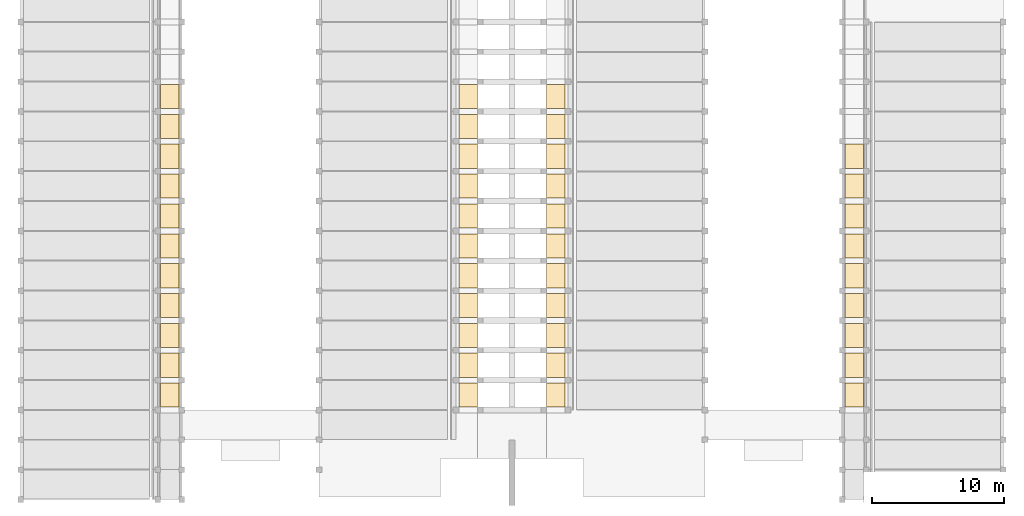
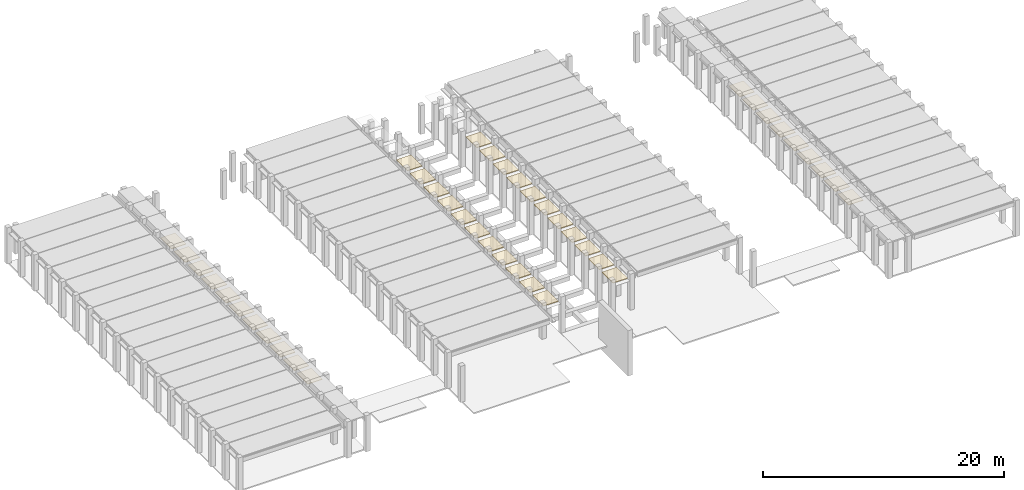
# One storey, part 16 of 18: 42 coverings.
"""IFC2X3 building model written with IfcOpenShell, lengths in millimetres."""

from ifc_helpers import new_model, entity, si_unit, converted_unit, derived_unit, direction, frame, frame_2d, origin, origin_2d_with_axis, place, context, subcontext, project, spatial, rectangle, extrude, material, layer, layer_set, layer_usage, type_object, element, save


model = new_model("IFC2X3")

# Units and contexts
model_context = context("Model", 3, precision=0.01, world=origin(), true_north=direction((6.12303176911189e-17, 1.0)))
body_context = subcontext(model_context, "Body", "Model", "MODEL_VIEW")
ifc_project = project(units=[si_unit("LENGTHUNIT", "METRE", prefix="MILLI"), si_unit("AREAUNIT", "SQUARE_METRE"), si_unit("VOLUMEUNIT", "CUBIC_METRE"), converted_unit("PLANEANGLEUNIT", "DEGREE", entity("IfcRatioMeasure", 0.0174532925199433), si_unit("PLANEANGLEUNIT", "RADIAN"), dimensions=[0, 0, 0, 0, 0, 0, 0]), si_unit("MASSUNIT", "GRAM", prefix="KILO"), derived_unit("MASSDENSITYUNIT", [(si_unit("MASSUNIT", "GRAM", prefix="KILO"), 1), (si_unit("LENGTHUNIT", "METRE"), -3)]), derived_unit("MOMENTOFINERTIAUNIT", [(si_unit("LENGTHUNIT", "METRE"), 4)]), si_unit("TIMEUNIT", "SECOND"), si_unit("FREQUENCYUNIT", "HERTZ"), si_unit("THERMODYNAMICTEMPERATUREUNIT", "DEGREE_CELSIUS"), derived_unit("THERMALTRANSMITTANCEUNIT", [(si_unit("MASSUNIT", "GRAM", prefix="KILO"), 1), (si_unit("THERMODYNAMICTEMPERATUREUNIT", "KELVIN"), -1), (si_unit("TIMEUNIT", "SECOND"), -3)]), derived_unit("VOLUMETRICFLOWRATEUNIT", [(si_unit("LENGTHUNIT", "METRE"), 3), (si_unit("TIMEUNIT", "SECOND"), -1)]), si_unit("ELECTRICCURRENTUNIT", "AMPERE"), si_unit("ELECTRICVOLTAGEUNIT", "VOLT"), si_unit("POWERUNIT", "WATT"), si_unit("FORCEUNIT", "NEWTON", prefix="KILO"), si_unit("ILLUMINANCEUNIT", "LUX"), si_unit("LUMINOUSFLUXUNIT", "LUMEN"), si_unit("LUMINOUSINTENSITYUNIT", "CANDELA"), derived_unit("USERDEFINED", [(si_unit("MASSUNIT", "GRAM", prefix="KILO"), -1), (si_unit("LENGTHUNIT", "METRE"), -2), (si_unit("TIMEUNIT", "SECOND"), 3), (si_unit("LUMINOUSFLUXUNIT", "LUMEN"), 1)]), derived_unit("LINEARVELOCITYUNIT", [(si_unit("LENGTHUNIT", "METRE"), 1), (si_unit("TIMEUNIT", "SECOND"), -1)]), si_unit("PRESSUREUNIT", "PASCAL"), derived_unit("USERDEFINED", [(si_unit("LENGTHUNIT", "METRE"), -2), (si_unit("MASSUNIT", "GRAM", prefix="KILO"), 1), (si_unit("TIMEUNIT", "SECOND"), -2)]), derived_unit("LINEARFORCEUNIT", [(si_unit("MASSUNIT", "GRAM", prefix="KILO"), 1), (si_unit("LENGTHUNIT", "METRE"), 1), (si_unit("TIMEUNIT", "SECOND"), -2), (si_unit("LENGTHUNIT", "METRE"), -1)]), derived_unit("PLANARFORCEUNIT", [(si_unit("MASSUNIT", "GRAM", prefix="KILO"), 1), (si_unit("LENGTHUNIT", "METRE"), 1), (si_unit("TIMEUNIT", "SECOND"), -2), (si_unit("LENGTHUNIT", "METRE"), -2)])], contexts=[model_context])

# Site, building, storey
site_placement = place(None, frame((10627.5135316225, 21939.0796949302, 0.0)))
site = spatial("IfcSite", under=ifc_project, at=site_placement, Name="Default", CompositionType="ELEMENT")
building_placement = place(site_placement, origin())
building = spatial("IfcBuilding", under=site, at=building_placement, CompositionType="ELEMENT")
storey_placement = place(building_placement, frame((0.0, 0.0, 3660.0)))
storey = spatial("IfcBuildingStorey", under=building, at=storey_placement, Name="R+1", CompositionType="ELEMENT", Elevation=3660.0)

# Coverings
ifc_material_1 = material(Name="Metal Stud Layer")
ifc_layer_1 = layer(ifc_material_1, 45.0)
ifc_material_2 = material(Name="PVC, Flexible")
ifc_layer_2 = layer(ifc_material_2, 12.0)
ifc_layer_set = layer_set([ifc_layer_1, ifc_layer_2], Name="Compound Ceiling:Plain")
ifc_layer_usage_1 = layer_usage(ifc_layer_set, "AXIS3", "POSITIVE", 0.0)
covering_type_1 = type_object("IfcCoveringType", Name="Compound Ceiling:Plain", PredefinedType="CEILING")
covering_1_placement = place(storey_placement, origin())
element("IfcCovering", 1, at=covering_1_placement, inside=storey, type_object=covering_type_1, material=ifc_layer_usage_1, Name="Compound Ceiling:Plain", ObjectType="Compound Ceiling:Plain", PredefinedType="CEILING", context=body_context, shape_type="SweptSolid", body=[
    extrude(rectangle(XDim=1828.30330426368, YDim=1400.00000000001, at=origin_2d_with_axis()), frame((23257.4864683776, 8571.76865293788, 2959.0), z_axis=(0.0, 0.0, 1.0), x_axis=(0.0, -1.0, 0.0)), (0.0, 0.0, 1.0), 57.0),
])
ifc_layer_usage_2 = layer_usage(ifc_layer_set, "AXIS3", "POSITIVE", 0.0)
covering_type_2 = type_object("IfcCoveringType", Name="Compound Ceiling:Plain", PredefinedType="CEILING")
covering_2_placement = place(storey_placement, origin())
element("IfcCovering", 2, at=covering_2_placement, inside=storey, type_object=covering_type_2, material=ifc_layer_usage_2, Name="Compound Ceiling:Plain", ObjectType="Compound Ceiling:Plain", PredefinedType="CEILING", context=body_context, shape_type="SweptSolid", body=[
    extrude(rectangle(XDim=1828.30330426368, YDim=1400.00000000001, at=origin_2d_with_axis()), frame((23257.4864683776, 6311.76865293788, 2959.0), z_axis=(0.0, 0.0, 1.0), x_axis=(0.0, -1.0, 0.0)), (0.0, 0.0, 1.0), 57.0),
])
ifc_layer_usage_3 = layer_usage(ifc_layer_set, "AXIS3", "POSITIVE", 0.0)
covering_type_3 = type_object("IfcCoveringType", Name="Compound Ceiling:Plain", PredefinedType="CEILING")
covering_3_placement = place(storey_placement, origin())
element("IfcCovering", 3, at=covering_3_placement, inside=storey, type_object=covering_type_3, material=ifc_layer_usage_3, Name="Compound Ceiling:Plain", ObjectType="Compound Ceiling:Plain", PredefinedType="CEILING", context=body_context, shape_type="SweptSolid", body=[
    extrude(rectangle(XDim=1828.30330426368, YDim=1400.00000000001, at=origin_2d_with_axis()), frame((23257.4864683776, 4051.76865293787, 2959.0), z_axis=(0.0, 0.0, 1.0), x_axis=(0.0, -1.0, 0.0)), (0.0, 0.0, 1.0), 57.0),
])
ifc_layer_usage_4 = layer_usage(ifc_layer_set, "AXIS3", "POSITIVE", 0.0)
covering_type_4 = type_object("IfcCoveringType", Name="Compound Ceiling:Plain", PredefinedType="CEILING")
covering_4_placement = place(storey_placement, origin())
element("IfcCovering", 4, at=covering_4_placement, inside=storey, type_object=covering_type_4, material=ifc_layer_usage_4, Name="Compound Ceiling:Plain", ObjectType="Compound Ceiling:Plain", PredefinedType="CEILING", context=body_context, shape_type="SweptSolid", body=[
    extrude(rectangle(XDim=1828.30330426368, YDim=1400.00000000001, at=origin_2d_with_axis()), frame((23257.4864683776, 1791.76865293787, 2959.0), z_axis=(0.0, 0.0, 1.0), x_axis=(0.0, -1.0, 0.0)), (0.0, 0.0, 1.0), 57.0),
])
ifc_layer_usage_5 = layer_usage(ifc_layer_set, "AXIS3", "POSITIVE", 0.0)
covering_type_5 = type_object("IfcCoveringType", Name="Compound Ceiling:Plain", PredefinedType="CEILING")
covering_5_placement = place(storey_placement, origin())
element("IfcCovering", 5, at=covering_5_placement, inside=storey, type_object=covering_type_5, material=ifc_layer_usage_5, Name="Compound Ceiling:Plain", ObjectType="Compound Ceiling:Plain", PredefinedType="CEILING", context=body_context, shape_type="SweptSolid", body=[
    extrude(rectangle(XDim=1828.30330426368, YDim=1400.00000000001, at=origin_2d_with_axis()), frame((23257.4864683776, -468.231347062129, 2959.0), z_axis=(0.0, 0.0, 1.0), x_axis=(0.0, -1.0, 0.0)), (0.0, 0.0, 1.0), 57.0),
])
ifc_layer_usage_6 = layer_usage(ifc_layer_set, "AXIS3", "POSITIVE", 0.0)
covering_type_6 = type_object("IfcCoveringType", Name="Compound Ceiling:Plain", PredefinedType="CEILING")
covering_6_placement = place(storey_placement, origin())
element("IfcCovering", 6, at=covering_6_placement, inside=storey, type_object=covering_type_6, material=ifc_layer_usage_6, Name="Compound Ceiling:Plain", ObjectType="Compound Ceiling:Plain", PredefinedType="CEILING", context=body_context, shape_type="SweptSolid", body=[
    extrude(rectangle(XDim=1828.30330426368, YDim=1400.00000000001, at=origin_2d_with_axis()), frame((23257.4864683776, -2728.23134706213, 2959.0), z_axis=(0.0, 0.0, 1.0), x_axis=(0.0, -1.0, 0.0)), (0.0, 0.0, 1.0), 57.0),
])
ifc_layer_usage_7 = layer_usage(ifc_layer_set, "AXIS3", "POSITIVE", 0.0)
covering_type_7 = type_object("IfcCoveringType", Name="Compound Ceiling:Plain", PredefinedType="CEILING")
covering_7_placement = place(storey_placement, origin())
element("IfcCovering", 7, at=covering_7_placement, inside=storey, type_object=covering_type_7, material=ifc_layer_usage_7, Name="Compound Ceiling:Plain", ObjectType="Compound Ceiling:Plain", PredefinedType="CEILING", context=body_context, shape_type="SweptSolid", body=[
    extrude(rectangle(XDim=1828.30330426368, YDim=1400.00000000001, at=origin_2d_with_axis()), frame((23257.4864683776, -4988.23134706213, 2959.0), z_axis=(0.0, 0.0, 1.0), x_axis=(0.0, -1.0, 0.0)), (0.0, 0.0, 1.0), 57.0),
])
ifc_layer_usage_8 = layer_usage(ifc_layer_set, "AXIS3", "POSITIVE", 0.0)
covering_type_8 = type_object("IfcCoveringType", Name="Compound Ceiling:Plain", PredefinedType="CEILING")
covering_8_placement = place(storey_placement, origin())
element("IfcCovering", 8, at=covering_8_placement, inside=storey, type_object=covering_type_8, material=ifc_layer_usage_8, Name="Compound Ceiling:Plain", ObjectType="Compound Ceiling:Plain", PredefinedType="CEILING", context=body_context, shape_type="SweptSolid", body=[
    extrude(rectangle(XDim=1828.30330426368, YDim=1400.00000000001, at=origin_2d_with_axis()), frame((23257.4864683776, -7248.23134706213, 2959.0), z_axis=(0.0, 0.0, 1.0), x_axis=(0.0, -1.0, 0.0)), (0.0, 0.0, 1.0), 57.0),
])
ifc_layer_usage_9 = layer_usage(ifc_layer_set, "AXIS3", "POSITIVE", 0.0)
covering_type_9 = type_object("IfcCoveringType", Name="Compound Ceiling:Plain", PredefinedType="CEILING")
covering_9_placement = place(storey_placement, origin())
element("IfcCovering", 9, at=covering_9_placement, inside=storey, type_object=covering_type_9, material=ifc_layer_usage_9, Name="Compound Ceiling:Plain", ObjectType="Compound Ceiling:Plain", PredefinedType="CEILING", context=body_context, shape_type="SweptSolid", body=[
    extrude(rectangle(XDim=1828.30330426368, YDim=1400.00000000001, at=origin_2d_with_axis()), frame((23257.4864683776, -9508.23134706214, 2959.0), z_axis=(0.0, 0.0, 1.0), x_axis=(0.0, -1.0, 0.0)), (0.0, 0.0, 1.0), 57.0),
])
ifc_layer_usage_10 = layer_usage(ifc_layer_set, "AXIS3", "POSITIVE", 0.0)
covering_type_10 = type_object("IfcCoveringType", Name="Compound Ceiling:Plain", PredefinedType="CEILING")
covering_10_placement = place(storey_placement, origin())
element("IfcCovering", 10, at=covering_10_placement, inside=storey, type_object=covering_type_10, material=ifc_layer_usage_10, Name="Compound Ceiling:Plain", ObjectType="Compound Ceiling:Plain", PredefinedType="CEILING", context=body_context, shape_type="SweptSolid", body=[
    extrude(rectangle(XDim=1828.30330426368, YDim=1400.00000000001, at=frame_2d((-1.08002495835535e-12, 0.0), x_axis=(1.0, 0.0))), frame((23257.4864683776, -11768.2313470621, 2959.0), z_axis=(0.0, 0.0, 1.0), x_axis=(0.0, -1.0, 0.0)), (0.0, 0.0, 1.0), 57.0),
])
ifc_layer_usage_11 = layer_usage(ifc_layer_set, "AXIS3", "POSITIVE", 0.0)
covering_type_11 = type_object("IfcCoveringType", Name="Compound Ceiling:Plain", PredefinedType="CEILING")
covering_11_placement = place(storey_placement, origin())
element("IfcCovering", 11, at=covering_11_placement, inside=storey, type_object=covering_type_11, material=ifc_layer_usage_11, Name="Compound Ceiling:Plain", ObjectType="Compound Ceiling:Plain", PredefinedType="CEILING", context=body_context, shape_type="SweptSolid", body=[
    extrude(rectangle(XDim=1828.30330426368, YDim=1400.00000000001, at=frame_2d((-1.08002495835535e-12, 0.0), x_axis=(1.0, 0.0))), frame((23257.4864683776, -14028.2313470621, 2959.0), z_axis=(0.0, 0.0, 1.0), x_axis=(0.0, -1.0, 0.0)), (0.0, 0.0, 1.0), 57.0),
])
ifc_layer_usage_12 = layer_usage(ifc_layer_set, "AXIS3", "POSITIVE", 0.0)
covering_type_12 = type_object("IfcCoveringType", Name="Compound Ceiling:Plain", PredefinedType="CEILING")
covering_12_placement = place(storey_placement, origin())
element("IfcCovering", 12, at=covering_12_placement, inside=storey, type_object=covering_type_12, material=ifc_layer_usage_12, Name="Compound Ceiling:Plain", ObjectType="Compound Ceiling:Plain", PredefinedType="CEILING", context=body_context, shape_type="SweptSolid", body=[
    extrude(rectangle(XDim=1828.30330426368, YDim=1400.00000000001, at=origin_2d_with_axis()), frame((667.486468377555, 8571.76865293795, 2959.0), z_axis=(0.0, 0.0, 1.0), x_axis=(0.0, -1.0, 0.0)), (0.0, 0.0, 1.0), 57.0),
])
ifc_layer_usage_13 = layer_usage(ifc_layer_set, "AXIS3", "POSITIVE", 0.0)
covering_type_13 = type_object("IfcCoveringType", Name="Compound Ceiling:Plain", PredefinedType="CEILING")
covering_13_placement = place(storey_placement, origin())
element("IfcCovering", 13, at=covering_13_placement, inside=storey, type_object=covering_type_13, material=ifc_layer_usage_13, Name="Compound Ceiling:Plain", ObjectType="Compound Ceiling:Plain", PredefinedType="CEILING", context=body_context, shape_type="SweptSolid", body=[
    extrude(rectangle(XDim=1828.30330426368, YDim=1400.00000000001, at=origin_2d_with_axis()), frame((667.486468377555, 6311.76865293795, 2959.0), z_axis=(0.0, 0.0, 1.0), x_axis=(0.0, -1.0, 0.0)), (0.0, 0.0, 1.0), 57.0),
])
ifc_layer_usage_14 = layer_usage(ifc_layer_set, "AXIS3", "POSITIVE", 0.0)
covering_type_14 = type_object("IfcCoveringType", Name="Compound Ceiling:Plain", PredefinedType="CEILING")
covering_14_placement = place(storey_placement, origin())
element("IfcCovering", 14, at=covering_14_placement, inside=storey, type_object=covering_type_14, material=ifc_layer_usage_14, Name="Compound Ceiling:Plain", ObjectType="Compound Ceiling:Plain", PredefinedType="CEILING", context=body_context, shape_type="SweptSolid", body=[
    extrude(rectangle(XDim=1828.30330426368, YDim=1400.00000000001, at=origin_2d_with_axis()), frame((667.486468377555, 4051.76865293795, 2959.0), z_axis=(0.0, 0.0, 1.0), x_axis=(0.0, -1.0, 0.0)), (0.0, 0.0, 1.0), 57.0),
])
ifc_layer_usage_15 = layer_usage(ifc_layer_set, "AXIS3", "POSITIVE", 0.0)
covering_type_15 = type_object("IfcCoveringType", Name="Compound Ceiling:Plain", PredefinedType="CEILING")
covering_15_placement = place(storey_placement, origin())
element("IfcCovering", 15, at=covering_15_placement, inside=storey, type_object=covering_type_15, material=ifc_layer_usage_15, Name="Compound Ceiling:Plain", ObjectType="Compound Ceiling:Plain", PredefinedType="CEILING", context=body_context, shape_type="SweptSolid", body=[
    extrude(rectangle(XDim=1828.30330426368, YDim=1400.00000000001, at=origin_2d_with_axis()), frame((667.486468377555, 1791.76865293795, 2959.0), z_axis=(0.0, 0.0, 1.0), x_axis=(0.0, -1.0, 0.0)), (0.0, 0.0, 1.0), 57.0),
])
ifc_layer_usage_16 = layer_usage(ifc_layer_set, "AXIS3", "POSITIVE", 0.0)
covering_type_16 = type_object("IfcCoveringType", Name="Compound Ceiling:Plain", PredefinedType="CEILING")
covering_16_placement = place(storey_placement, origin())
element("IfcCovering", 16, at=covering_16_placement, inside=storey, type_object=covering_type_16, material=ifc_layer_usage_16, Name="Compound Ceiling:Plain", ObjectType="Compound Ceiling:Plain", PredefinedType="CEILING", context=body_context, shape_type="SweptSolid", body=[
    extrude(rectangle(XDim=1828.30330426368, YDim=1400.00000000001, at=origin_2d_with_axis()), frame((667.486468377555, -468.231347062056, 2959.0), z_axis=(0.0, 0.0, 1.0), x_axis=(0.0, -1.0, 0.0)), (0.0, 0.0, 1.0), 57.0),
])
ifc_layer_usage_17 = layer_usage(ifc_layer_set, "AXIS3", "POSITIVE", 0.0)
covering_type_17 = type_object("IfcCoveringType", Name="Compound Ceiling:Plain", PredefinedType="CEILING")
covering_17_placement = place(storey_placement, origin())
element("IfcCovering", 17, at=covering_17_placement, inside=storey, type_object=covering_type_17, material=ifc_layer_usage_17, Name="Compound Ceiling:Plain", ObjectType="Compound Ceiling:Plain", PredefinedType="CEILING", context=body_context, shape_type="SweptSolid", body=[
    extrude(rectangle(XDim=1828.30330426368, YDim=1400.00000000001, at=origin_2d_with_axis()), frame((667.486468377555, -2728.23134706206, 2959.0), z_axis=(0.0, 0.0, 1.0), x_axis=(0.0, -1.0, 0.0)), (0.0, 0.0, 1.0), 57.0),
])
ifc_layer_usage_18 = layer_usage(ifc_layer_set, "AXIS3", "POSITIVE", 0.0)
covering_type_18 = type_object("IfcCoveringType", Name="Compound Ceiling:Plain", PredefinedType="CEILING")
covering_18_placement = place(storey_placement, origin())
element("IfcCovering", 18, at=covering_18_placement, inside=storey, type_object=covering_type_18, material=ifc_layer_usage_18, Name="Compound Ceiling:Plain", ObjectType="Compound Ceiling:Plain", PredefinedType="CEILING", context=body_context, shape_type="SweptSolid", body=[
    extrude(rectangle(XDim=1828.30330426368, YDim=1400.00000000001, at=origin_2d_with_axis()), frame((667.486468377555, -4988.23134706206, 2959.0), z_axis=(0.0, 0.0, 1.0), x_axis=(0.0, -1.0, 0.0)), (0.0, 0.0, 1.0), 57.0),
])
ifc_layer_usage_19 = layer_usage(ifc_layer_set, "AXIS3", "POSITIVE", 0.0)
covering_type_19 = type_object("IfcCoveringType", Name="Compound Ceiling:Plain", PredefinedType="CEILING")
covering_19_placement = place(storey_placement, origin())
element("IfcCovering", 19, at=covering_19_placement, inside=storey, type_object=covering_type_19, material=ifc_layer_usage_19, Name="Compound Ceiling:Plain", ObjectType="Compound Ceiling:Plain", PredefinedType="CEILING", context=body_context, shape_type="SweptSolid", body=[
    extrude(rectangle(XDim=1828.30330426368, YDim=1400.00000000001, at=origin_2d_with_axis()), frame((667.486468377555, -7248.23134706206, 2959.0), z_axis=(0.0, 0.0, 1.0), x_axis=(0.0, -1.0, 0.0)), (0.0, 0.0, 1.0), 57.0),
])
ifc_layer_usage_20 = layer_usage(ifc_layer_set, "AXIS3", "POSITIVE", 0.0)
covering_type_20 = type_object("IfcCoveringType", Name="Compound Ceiling:Plain", PredefinedType="CEILING")
covering_20_placement = place(storey_placement, origin())
element("IfcCovering", 20, at=covering_20_placement, inside=storey, type_object=covering_type_20, material=ifc_layer_usage_20, Name="Compound Ceiling:Plain", ObjectType="Compound Ceiling:Plain", PredefinedType="CEILING", context=body_context, shape_type="SweptSolid", body=[
    extrude(rectangle(XDim=1828.30330426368, YDim=1400.00000000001, at=origin_2d_with_axis()), frame((667.486468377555, -9508.23134706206, 2959.0), z_axis=(0.0, 0.0, 1.0), x_axis=(0.0, -1.0, 0.0)), (0.0, 0.0, 1.0), 57.0),
])
ifc_layer_usage_21 = layer_usage(ifc_layer_set, "AXIS3", "POSITIVE", 0.0)
covering_type_21 = type_object("IfcCoveringType", Name="Compound Ceiling:Plain", PredefinedType="CEILING")
covering_21_placement = place(storey_placement, origin())
element("IfcCovering", 21, at=covering_21_placement, inside=storey, type_object=covering_type_21, material=ifc_layer_usage_21, Name="Compound Ceiling:Plain", ObjectType="Compound Ceiling:Plain", PredefinedType="CEILING", context=body_context, shape_type="SweptSolid", body=[
    extrude(rectangle(XDim=1828.30330426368, YDim=1400.00000000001, at=frame_2d((-1.08002495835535e-12, 0.0), x_axis=(1.0, 0.0))), frame((667.486468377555, -11768.2313470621, 2959.0), z_axis=(0.0, 0.0, 1.0), x_axis=(0.0, -1.0, 0.0)), (0.0, 0.0, 1.0), 57.0),
])
ifc_layer_usage_22 = layer_usage(ifc_layer_set, "AXIS3", "POSITIVE", 0.0)
covering_type_22 = type_object("IfcCoveringType", Name="Compound Ceiling:Plain", PredefinedType="CEILING")
covering_22_placement = place(storey_placement, origin())
element("IfcCovering", 22, at=covering_22_placement, inside=storey, type_object=covering_type_22, material=ifc_layer_usage_22, Name="Compound Ceiling:Plain", ObjectType="Compound Ceiling:Plain", PredefinedType="CEILING", context=body_context, shape_type="SweptSolid", body=[
    extrude(rectangle(XDim=1828.30330426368, YDim=1400.00000000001, at=frame_2d((-1.08002495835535e-12, 0.0), x_axis=(1.0, 0.0))), frame((667.486468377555, -14028.2313470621, 2959.0), z_axis=(0.0, 0.0, 1.0), x_axis=(0.0, -1.0, 0.0)), (0.0, 0.0, 1.0), 57.0),
])
ifc_layer_usage_23 = layer_usage(ifc_layer_set, "AXIS3", "POSITIVE", 0.0)
covering_type_23 = type_object("IfcCoveringType", Name="Compound Ceiling:Plain", PredefinedType="CEILING")
covering_23_placement = place(storey_placement, origin())
element("IfcCovering", 23, at=covering_23_placement, inside=storey, type_object=covering_type_23, material=ifc_layer_usage_23, Name="Compound Ceiling:Plain", ObjectType="Compound Ceiling:Plain", PredefinedType="CEILING", context=body_context, shape_type="SweptSolid", body=[
    extrude(rectangle(XDim=1400.00000000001, YDim=1828.30330426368, at=frame_2d((0.0, 1.08002495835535e-12), x_axis=(1.0, 0.0))), frame((29897.4864683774, 8571.76865293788, 2959.0), z_axis=(0.0, 0.0, 1.0), x_axis=(-1.0, 0.0, 0.0)), (0.0, 0.0, 1.0), 57.0),
])
ifc_layer_usage_24 = layer_usage(ifc_layer_set, "AXIS3", "POSITIVE", 0.0)
covering_type_24 = type_object("IfcCoveringType", Name="Compound Ceiling:Plain", PredefinedType="CEILING")
covering_24_placement = place(storey_placement, origin())
element("IfcCovering", 24, at=covering_24_placement, inside=storey, type_object=covering_type_24, material=ifc_layer_usage_24, Name="Compound Ceiling:Plain", ObjectType="Compound Ceiling:Plain", PredefinedType="CEILING", context=body_context, shape_type="SweptSolid", body=[
    extrude(rectangle(XDim=1400.00000000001, YDim=1828.30330426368, at=frame_2d((0.0, -1.08002495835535e-12), x_axis=(1.0, 0.0))), frame((29897.4864683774, 6311.76865293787, 2959.0), z_axis=(0.0, 0.0, 1.0), x_axis=(-1.0, 0.0, 0.0)), (0.0, 0.0, 1.0), 57.0),
])
ifc_layer_usage_25 = layer_usage(ifc_layer_set, "AXIS3", "POSITIVE", 0.0)
covering_type_25 = type_object("IfcCoveringType", Name="Compound Ceiling:Plain", PredefinedType="CEILING")
covering_25_placement = place(storey_placement, origin())
element("IfcCovering", 25, at=covering_25_placement, inside=storey, type_object=covering_type_25, material=ifc_layer_usage_25, Name="Compound Ceiling:Plain", ObjectType="Compound Ceiling:Plain", PredefinedType="CEILING", context=body_context, shape_type="SweptSolid", body=[
    extrude(rectangle(XDim=1400.00000000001, YDim=1828.30330426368, at=origin_2d_with_axis()), frame((29897.4864683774, 4051.76865293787, 2959.0), z_axis=(0.0, 0.0, 1.0), x_axis=(-1.0, 0.0, 0.0)), (0.0, 0.0, 1.0), 57.0),
])
ifc_layer_usage_26 = layer_usage(ifc_layer_set, "AXIS3", "POSITIVE", 0.0)
covering_type_26 = type_object("IfcCoveringType", Name="Compound Ceiling:Plain", PredefinedType="CEILING")
covering_26_placement = place(storey_placement, origin())
element("IfcCovering", 26, at=covering_26_placement, inside=storey, type_object=covering_type_26, material=ifc_layer_usage_26, Name="Compound Ceiling:Plain", ObjectType="Compound Ceiling:Plain", PredefinedType="CEILING", context=body_context, shape_type="SweptSolid", body=[
    extrude(rectangle(XDim=1400.00000000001, YDim=1828.30330426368, at=origin_2d_with_axis()), frame((29897.4864683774, 1791.76865293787, 2959.0), z_axis=(0.0, 0.0, 1.0), x_axis=(-1.0, 0.0, 0.0)), (0.0, 0.0, 1.0), 57.0),
])
ifc_layer_usage_27 = layer_usage(ifc_layer_set, "AXIS3", "POSITIVE", 0.0)
covering_type_27 = type_object("IfcCoveringType", Name="Compound Ceiling:Plain", PredefinedType="CEILING")
covering_27_placement = place(storey_placement, origin())
element("IfcCovering", 27, at=covering_27_placement, inside=storey, type_object=covering_type_27, material=ifc_layer_usage_27, Name="Compound Ceiling:Plain", ObjectType="Compound Ceiling:Plain", PredefinedType="CEILING", context=body_context, shape_type="SweptSolid", body=[
    extrude(rectangle(XDim=1400.00000000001, YDim=1828.30330426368, at=origin_2d_with_axis()), frame((29897.4864683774, -468.231347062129, 2959.0), z_axis=(0.0, 0.0, 1.0), x_axis=(-1.0, 0.0, 0.0)), (0.0, 0.0, 1.0), 57.0),
])
ifc_layer_usage_28 = layer_usage(ifc_layer_set, "AXIS3", "POSITIVE", 0.0)
covering_type_28 = type_object("IfcCoveringType", Name="Compound Ceiling:Plain", PredefinedType="CEILING")
covering_28_placement = place(storey_placement, origin())
element("IfcCovering", 28, at=covering_28_placement, inside=storey, type_object=covering_type_28, material=ifc_layer_usage_28, Name="Compound Ceiling:Plain", ObjectType="Compound Ceiling:Plain", PredefinedType="CEILING", context=body_context, shape_type="SweptSolid", body=[
    extrude(rectangle(XDim=1400.00000000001, YDim=1828.30330426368, at=origin_2d_with_axis()), frame((29897.4864683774, -2728.23134706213, 2959.0), z_axis=(0.0, 0.0, 1.0), x_axis=(-1.0, 0.0, 0.0)), (0.0, 0.0, 1.0), 57.0),
])
ifc_layer_usage_29 = layer_usage(ifc_layer_set, "AXIS3", "POSITIVE", 0.0)
covering_type_29 = type_object("IfcCoveringType", Name="Compound Ceiling:Plain", PredefinedType="CEILING")
covering_29_placement = place(storey_placement, origin())
element("IfcCovering", 29, at=covering_29_placement, inside=storey, type_object=covering_type_29, material=ifc_layer_usage_29, Name="Compound Ceiling:Plain", ObjectType="Compound Ceiling:Plain", PredefinedType="CEILING", context=body_context, shape_type="SweptSolid", body=[
    extrude(rectangle(XDim=1400.00000000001, YDim=1828.30330426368, at=origin_2d_with_axis()), frame((29897.4864683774, -4988.23134706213, 2959.0), z_axis=(0.0, 0.0, 1.0), x_axis=(-1.0, 0.0, 0.0)), (0.0, 0.0, 1.0), 57.0),
])
ifc_layer_usage_30 = layer_usage(ifc_layer_set, "AXIS3", "POSITIVE", 0.0)
covering_type_30 = type_object("IfcCoveringType", Name="Compound Ceiling:Plain", PredefinedType="CEILING")
covering_30_placement = place(storey_placement, origin())
element("IfcCovering", 30, at=covering_30_placement, inside=storey, type_object=covering_type_30, material=ifc_layer_usage_30, Name="Compound Ceiling:Plain", ObjectType="Compound Ceiling:Plain", PredefinedType="CEILING", context=body_context, shape_type="SweptSolid", body=[
    extrude(rectangle(XDim=1400.00000000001, YDim=1828.30330426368, at=frame_2d((0.0, -1.08002495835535e-12), x_axis=(1.0, 0.0))), frame((29897.4864683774, -7248.23134706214, 2959.0), z_axis=(0.0, 0.0, 1.0), x_axis=(-1.0, 0.0, 0.0)), (0.0, 0.0, 1.0), 57.0),
])
ifc_layer_usage_31 = layer_usage(ifc_layer_set, "AXIS3", "POSITIVE", 0.0)
covering_type_31 = type_object("IfcCoveringType", Name="Compound Ceiling:Plain", PredefinedType="CEILING")
covering_31_placement = place(storey_placement, origin())
element("IfcCovering", 31, at=covering_31_placement, inside=storey, type_object=covering_type_31, material=ifc_layer_usage_31, Name="Compound Ceiling:Plain", ObjectType="Compound Ceiling:Plain", PredefinedType="CEILING", context=body_context, shape_type="SweptSolid", body=[
    extrude(rectangle(XDim=1400.00000000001, YDim=1828.30330426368, at=frame_2d((0.0, 1.08002495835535e-12), x_axis=(1.0, 0.0))), frame((29897.4864683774, -9508.23134706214, 2959.0), z_axis=(0.0, 0.0, 1.0), x_axis=(-1.0, 0.0, 0.0)), (0.0, 0.0, 1.0), 57.0),
])
ifc_layer_usage_32 = layer_usage(ifc_layer_set, "AXIS3", "POSITIVE", 0.0)
covering_type_32 = type_object("IfcCoveringType", Name="Compound Ceiling:Plain", PredefinedType="CEILING")
covering_32_placement = place(storey_placement, origin())
element("IfcCovering", 32, at=covering_32_placement, inside=storey, type_object=covering_type_32, material=ifc_layer_usage_32, Name="Compound Ceiling:Plain", ObjectType="Compound Ceiling:Plain", PredefinedType="CEILING", context=body_context, shape_type="SweptSolid", body=[
    extrude(rectangle(XDim=1400.00000000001, YDim=1828.30330426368, at=frame_2d((0.0, -1.08002495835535e-12), x_axis=(1.0, 0.0))), frame((29897.4864683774, -11768.2313470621, 2959.0), z_axis=(0.0, 0.0, 1.0), x_axis=(-1.0, 0.0, 0.0)), (0.0, 0.0, 1.0), 57.0),
])
ifc_layer_usage_33 = layer_usage(ifc_layer_set, "AXIS3", "POSITIVE", 0.0)
covering_type_33 = type_object("IfcCoveringType", Name="Compound Ceiling:Plain", PredefinedType="CEILING")
covering_33_placement = place(storey_placement, origin())
element("IfcCovering", 33, at=covering_33_placement, inside=storey, type_object=covering_type_33, material=ifc_layer_usage_33, Name="Compound Ceiling:Plain", ObjectType="Compound Ceiling:Plain", PredefinedType="CEILING", context=body_context, shape_type="SweptSolid", body=[
    extrude(rectangle(XDim=1400.00000000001, YDim=1828.30330426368, at=frame_2d((0.0, 1.08002495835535e-12), x_axis=(1.0, 0.0))), frame((29897.4864683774, -14028.2313470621, 2959.0), z_axis=(0.0, 0.0, 1.0), x_axis=(-1.0, 0.0, 0.0)), (0.0, 0.0, 1.0), 57.0),
])
ifc_layer_usage_34 = layer_usage(ifc_layer_set, "AXIS3", "POSITIVE", 0.0)
covering_type_34 = type_object("IfcCoveringType", Name="Compound Ceiling:Plain", PredefinedType="CEILING")
covering_34_placement = place(storey_placement, origin())
element("IfcCovering", 34, at=covering_34_placement, inside=storey, type_object=covering_type_34, material=ifc_layer_usage_34, Name="Compound Ceiling:Plain", ObjectType="Compound Ceiling:Plain", PredefinedType="CEILING", context=body_context, shape_type="SweptSolid", body=[
    extrude(rectangle(XDim=1400.00000000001, YDim=1828.30330426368, at=origin_2d_with_axis()), frame((52487.4864683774, 4051.76865293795, 2959.0), z_axis=(0.0, 0.0, 1.0), x_axis=(-1.0, 0.0, 0.0)), (0.0, 0.0, 1.0), 57.0),
])
ifc_layer_usage_35 = layer_usage(ifc_layer_set, "AXIS3", "POSITIVE", 0.0)
covering_type_35 = type_object("IfcCoveringType", Name="Compound Ceiling:Plain", PredefinedType="CEILING")
covering_35_placement = place(storey_placement, origin())
element("IfcCovering", 35, at=covering_35_placement, inside=storey, type_object=covering_type_35, material=ifc_layer_usage_35, Name="Compound Ceiling:Plain", ObjectType="Compound Ceiling:Plain", PredefinedType="CEILING", context=body_context, shape_type="SweptSolid", body=[
    extrude(rectangle(XDim=1400.00000000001, YDim=1828.30330426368, at=origin_2d_with_axis()), frame((52487.4864683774, 1791.76865293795, 2959.0), z_axis=(0.0, 0.0, 1.0), x_axis=(-1.0, 0.0, 0.0)), (0.0, 0.0, 1.0), 57.0),
])
ifc_layer_usage_36 = layer_usage(ifc_layer_set, "AXIS3", "POSITIVE", 0.0)
covering_type_36 = type_object("IfcCoveringType", Name="Compound Ceiling:Plain", PredefinedType="CEILING")
covering_36_placement = place(storey_placement, origin())
element("IfcCovering", 36, at=covering_36_placement, inside=storey, type_object=covering_type_36, material=ifc_layer_usage_36, Name="Compound Ceiling:Plain", ObjectType="Compound Ceiling:Plain", PredefinedType="CEILING", context=body_context, shape_type="SweptSolid", body=[
    extrude(rectangle(XDim=1400.00000000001, YDim=1828.30330426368, at=origin_2d_with_axis()), frame((52487.4864683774, -468.231347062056, 2959.0), z_axis=(0.0, 0.0, 1.0), x_axis=(-1.0, 0.0, 0.0)), (0.0, 0.0, 1.0), 57.0),
])
ifc_layer_usage_37 = layer_usage(ifc_layer_set, "AXIS3", "POSITIVE", 0.0)
covering_type_37 = type_object("IfcCoveringType", Name="Compound Ceiling:Plain", PredefinedType="CEILING")
covering_37_placement = place(storey_placement, origin())
element("IfcCovering", 37, at=covering_37_placement, inside=storey, type_object=covering_type_37, material=ifc_layer_usage_37, Name="Compound Ceiling:Plain", ObjectType="Compound Ceiling:Plain", PredefinedType="CEILING", context=body_context, shape_type="SweptSolid", body=[
    extrude(rectangle(XDim=1400.00000000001, YDim=1828.30330426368, at=origin_2d_with_axis()), frame((52487.4864683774, -2728.23134706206, 2959.0), z_axis=(0.0, 0.0, 1.0), x_axis=(-1.0, 0.0, 0.0)), (0.0, 0.0, 1.0), 57.0),
])
ifc_layer_usage_38 = layer_usage(ifc_layer_set, "AXIS3", "POSITIVE", 0.0)
covering_type_38 = type_object("IfcCoveringType", Name="Compound Ceiling:Plain", PredefinedType="CEILING")
covering_38_placement = place(storey_placement, origin())
element("IfcCovering", 38, at=covering_38_placement, inside=storey, type_object=covering_type_38, material=ifc_layer_usage_38, Name="Compound Ceiling:Plain", ObjectType="Compound Ceiling:Plain", PredefinedType="CEILING", context=body_context, shape_type="SweptSolid", body=[
    extrude(rectangle(XDim=1400.00000000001, YDim=1828.30330426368, at=origin_2d_with_axis()), frame((52487.4864683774, -4988.23134706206, 2959.0), z_axis=(0.0, 0.0, 1.0), x_axis=(-1.0, 0.0, 0.0)), (0.0, 0.0, 1.0), 57.0),
])
ifc_layer_usage_39 = layer_usage(ifc_layer_set, "AXIS3", "POSITIVE", 0.0)
covering_type_39 = type_object("IfcCoveringType", Name="Compound Ceiling:Plain", PredefinedType="CEILING")
covering_39_placement = place(storey_placement, origin())
element("IfcCovering", 39, at=covering_39_placement, inside=storey, type_object=covering_type_39, material=ifc_layer_usage_39, Name="Compound Ceiling:Plain", ObjectType="Compound Ceiling:Plain", PredefinedType="CEILING", context=body_context, shape_type="SweptSolid", body=[
    extrude(rectangle(XDim=1400.00000000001, YDim=1828.30330426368, at=frame_2d((0.0, 1.08002495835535e-12), x_axis=(1.0, 0.0))), frame((52487.4864683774, -7248.23134706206, 2959.0), z_axis=(0.0, 0.0, 1.0), x_axis=(-1.0, 0.0, 0.0)), (0.0, 0.0, 1.0), 57.0),
])
ifc_layer_usage_40 = layer_usage(ifc_layer_set, "AXIS3", "POSITIVE", 0.0)
covering_type_40 = type_object("IfcCoveringType", Name="Compound Ceiling:Plain", PredefinedType="CEILING")
covering_40_placement = place(storey_placement, origin())
element("IfcCovering", 40, at=covering_40_placement, inside=storey, type_object=covering_type_40, material=ifc_layer_usage_40, Name="Compound Ceiling:Plain", ObjectType="Compound Ceiling:Plain", PredefinedType="CEILING", context=body_context, shape_type="SweptSolid", body=[
    extrude(rectangle(XDim=1400.00000000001, YDim=1828.30330426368, at=frame_2d((0.0, -1.08002495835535e-12), x_axis=(1.0, 0.0))), frame((52487.4864683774, -9508.23134706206, 2959.0), z_axis=(0.0, 0.0, 1.0), x_axis=(-1.0, 0.0, 0.0)), (0.0, 0.0, 1.0), 57.0),
])
ifc_layer_usage_41 = layer_usage(ifc_layer_set, "AXIS3", "POSITIVE", 0.0)
covering_type_41 = type_object("IfcCoveringType", Name="Compound Ceiling:Plain", PredefinedType="CEILING")
covering_41_placement = place(storey_placement, origin())
element("IfcCovering", 41, at=covering_41_placement, inside=storey, type_object=covering_type_41, material=ifc_layer_usage_41, Name="Compound Ceiling:Plain", ObjectType="Compound Ceiling:Plain", PredefinedType="CEILING", context=body_context, shape_type="SweptSolid", body=[
    extrude(rectangle(XDim=1400.00000000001, YDim=1828.30330426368, at=frame_2d((0.0, 1.08002495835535e-12), x_axis=(1.0, 0.0))), frame((52487.4864683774, -11768.2313470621, 2959.0), z_axis=(0.0, 0.0, 1.0), x_axis=(-1.0, 0.0, 0.0)), (0.0, 0.0, 1.0), 57.0),
])
ifc_layer_usage_42 = layer_usage(ifc_layer_set, "AXIS3", "POSITIVE", 0.0)
covering_type_42 = type_object("IfcCoveringType", Name="Compound Ceiling:Plain", PredefinedType="CEILING")
covering_42_placement = place(storey_placement, origin())
element("IfcCovering", 42, at=covering_42_placement, inside=storey, type_object=covering_type_42, material=ifc_layer_usage_42, Name="Compound Ceiling:Plain", ObjectType="Compound Ceiling:Plain", PredefinedType="CEILING", context=body_context, shape_type="SweptSolid", body=[
    extrude(rectangle(XDim=1400.00000000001, YDim=1828.30330426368, at=frame_2d((0.0, -1.08002495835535e-12), x_axis=(1.0, 0.0))), frame((52487.4864683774, -14028.2313470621, 2959.0), z_axis=(0.0, 0.0, 1.0), x_axis=(-1.0, 0.0, 0.0)), (0.0, 0.0, 1.0), 57.0),
])

save(model, "model.ifc")
